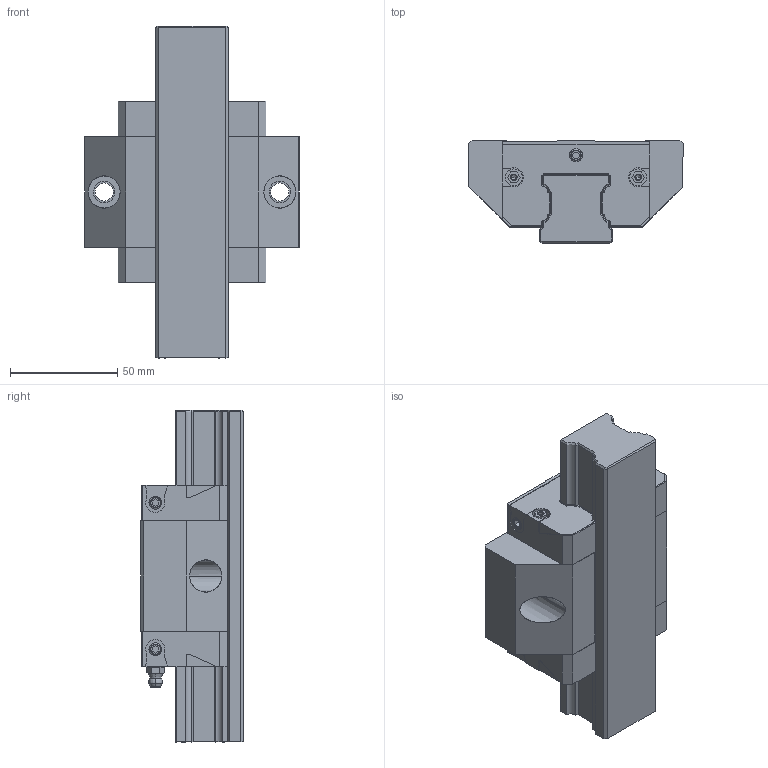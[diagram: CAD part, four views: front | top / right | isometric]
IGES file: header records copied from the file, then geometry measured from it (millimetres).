
Start section: 3D InterOp IGES (v. 2019 1.0.2), Spatial Corp. Copyright (c) 1999-2017.
Global section: file name: R1665_size35.igs; native system: Spatial Corp.; preprocessor: 3D InterOp GENERIC/IGES 3.0; author: Noname; organization: Noname; date: 20220629.125027; units: millimetre
Bounding box: 100 x 48 x 154.9 mm (x, y, z)
Surface area: 72611.4 mm2 (no closed solid volume)
Topology: 0 solids, 0 shells, 515 faces, 2692 edges, 2670 vertices
Faces by surface type: extrusion 298, revolution 217
